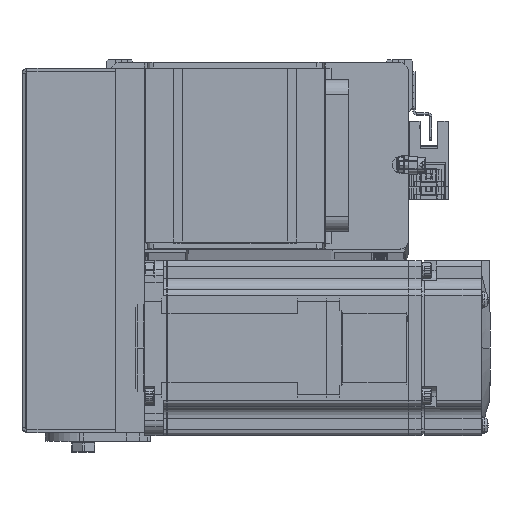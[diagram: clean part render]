
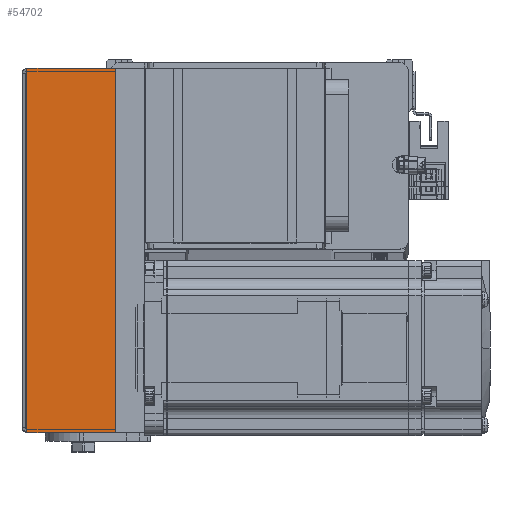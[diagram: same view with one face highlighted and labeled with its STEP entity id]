
A CAD part, top view. The second image highlights one B-rep face of the part: STEP entity #54702.
In plain terms, the highlighted planar face has unit normal (0, 0, 1) as drawn and (0, 0, -1) by its records, which use the part's own axes.
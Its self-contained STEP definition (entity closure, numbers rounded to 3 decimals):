
#928 = DIRECTION ( 'NONE',  ( 0., 0., 1. ) ) ;
#2410 = VERTEX_POINT ( 'NONE', #33398 ) ;
#3172 = EDGE_CURVE ( 'NONE', #5604, #11874, #15562, .T. ) ;
#5604 = VERTEX_POINT ( 'NONE', #24928 ) ;
#6649 = VECTOR ( 'NONE', #6930, 1000. ) ;
#6930 = DIRECTION ( 'NONE',  ( 1., 0., 0. ) ) ;
#7995 = LINE ( 'NONE', #16118, #20836 ) ;
#9064 = DIRECTION ( 'NONE',  ( 0., 1., 0. ) ) ;
#9215 = CARTESIAN_POINT ( 'NONE',  ( 62.5, 0., -31. ) ) ;
#9770 = CARTESIAN_POINT ( 'NONE',  ( -62.5, -30.3, -31. ) ) ;
#11874 = VERTEX_POINT ( 'NONE', #9215 ) ;
#13157 = EDGE_CURVE ( 'NONE', #2410, #53480, #26637, .T. ) ;
#13239 = EDGE_CURVE ( 'NONE', #2410, #5604, #20388, .T. ) ;
#15562 = LINE ( 'NONE', #28764, #47499 ) ;
#16118 = CARTESIAN_POINT ( 'NONE',  ( 0., 0., -31. ) ) ;
#20388 = LINE ( 'NONE', #49318, #6649 ) ;
#20836 = VECTOR ( 'NONE', #37788, 1000. ) ;
#22137 = DIRECTION ( 'NONE',  ( 0., 1., 0. ) ) ;
#24928 = CARTESIAN_POINT ( 'NONE',  ( 62.5, -30.3, -31. ) ) ;
#26637 = LINE ( 'NONE', #9770, #29106 ) ;
#28186 = ORIENTED_EDGE ( 'NONE', *, *, #13239, .F. ) ;
#28764 = CARTESIAN_POINT ( 'NONE',  ( 62.5, -30.3, -31. ) ) ;
#29022 = CARTESIAN_POINT ( 'NONE',  ( -62.5, 0., -31. ) ) ;
#29106 = VECTOR ( 'NONE', #22137, 1000. ) ;
#33398 = CARTESIAN_POINT ( 'NONE',  ( -62.5, -30.3, -31. ) ) ;
#34007 = ORIENTED_EDGE ( 'NONE', *, *, #3172, .F. ) ;
#37788 = DIRECTION ( 'NONE',  ( 1., 0., 0. ) ) ;
#38879 = CARTESIAN_POINT ( 'NONE',  ( 0., -30.8, -31. ) ) ;
#39428 = ORIENTED_EDGE ( 'NONE', *, *, #13157, .T. ) ;
#39438 = PLANE ( 'NONE',  #45477 ) ;
#39962 = EDGE_LOOP ( 'NONE', ( #28186, #39428, #49613, #34007 ) ) ;
#45477 = AXIS2_PLACEMENT_3D ( 'NONE', #38879, #928, #9064 ) ;
#47499 = VECTOR ( 'NONE', #54562, 1000. ) ;
#48367 = FACE_OUTER_BOUND ( 'NONE', #39962, .T. ) ;
#49318 = CARTESIAN_POINT ( 'NONE',  ( 62.5, -30.3, -31. ) ) ;
#49613 = ORIENTED_EDGE ( 'NONE', *, *, #50918, .T. ) ;
#50918 = EDGE_CURVE ( 'NONE', #53480, #11874, #7995, .T. ) ;
#53480 = VERTEX_POINT ( 'NONE', #29022 ) ;
#54562 = DIRECTION ( 'NONE',  ( 0., 1., 0. ) ) ;
#54702 = ADVANCED_FACE ( 'NONE', ( #48367 ), #39438, .F. ) ;
